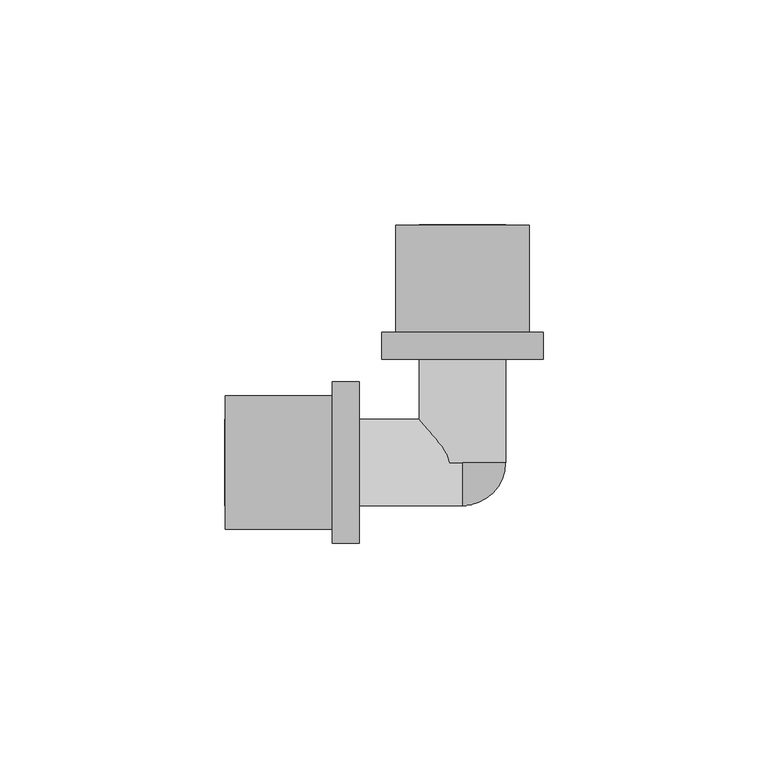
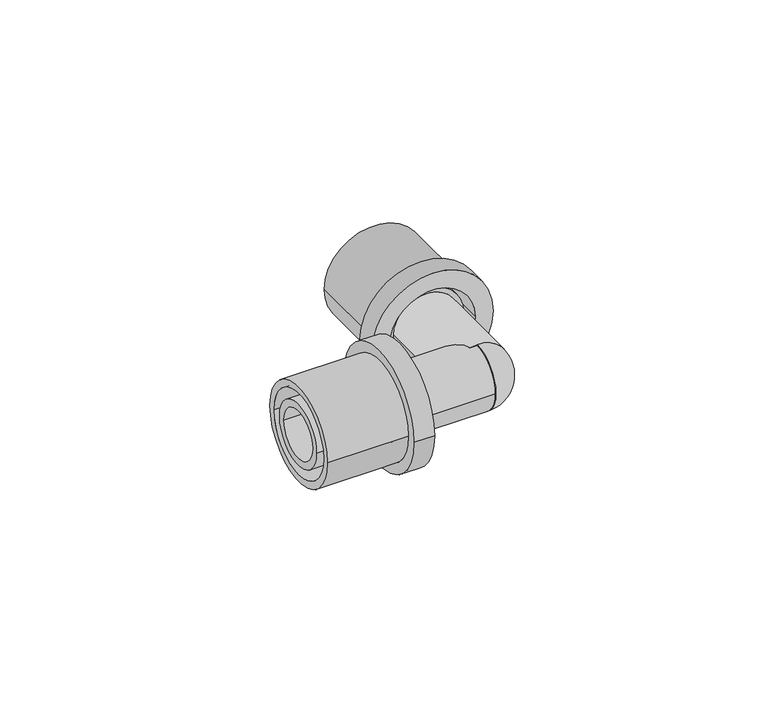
"""IFC4 building model written with IfcOpenShell, lengths in millimetres: pipe fitting geometry, FASTLOC_Corner EX+ : FSL C EX+ AT."""

from ifc_helpers import new_model, si_unit, point, frame, origin, place, context, project, spatial, polyline, circle_curve, ellipse_curve, trimmed, source, transform, mapped, element, save
from ifc_brep_helpers import plane_surface, cylinder_surface, revolved_surface, advanced_brep


def pipe_fitting_f574101e(model_context):
    return source(origin(), model_context, "Body", "AdvancedBrep", [
        advanced_brep(
        [(-18.0, 29.0, 0.0), (18.0, 29.0, 0.0), (18.0, 23.0, 0.0), (-18.0, 23.0, 0.0), (-14.85, 52.8, 0.0), (14.85, 52.8, 0.0), (14.85, 29.0, 0.0), (-14.85, 29.0, 0.0), (-12.65, 23.0, 0.0), (12.65, 23.0, 0.0), (12.65, 52.8, 0.0), (-12.65, 52.8, 0.0)],
        [
            (0, 1, circle_curve(frame((0.0, 29.0, 0.0), z_axis=(0.0, -1.0, 0.0), x_axis=(1.0, 0.0, 0.0)), 18.0)),
            (1, 2),
            (2, 3, circle_curve(frame((0.0, 23.0, 0.0), z_axis=(0.0, 1.0, 0.0), x_axis=(1.0, 0.0, 0.0)), 18.0)),
            (3, 0),
            (4, 5, circle_curve(frame((0.0, 52.8, 0.0), z_axis=(0.0, -1.0, 0.0), x_axis=(1.0, 0.0, 0.0)), 14.85)),
            (5, 6),
            (6, 7, circle_curve(frame((0.0, 29.0, 0.0), z_axis=(0.0, 1.0, 0.0), x_axis=(1.0, 0.0, 0.0)), 14.85)),
            (7, 4),
            (8, 9, circle_curve(frame((0.0, 23.0, 0.0), z_axis=(0.0, -1.0, 0.0), x_axis=(1.0, 0.0, 0.0)), 12.65)),
            (9, 10),
            (10, 11, circle_curve(frame((0.0, 52.8, 0.0), z_axis=(0.0, 1.0, 0.0), x_axis=(1.0, 0.0, 0.0)), 12.65)),
            (11, 8),
            (1, 0, circle_curve(frame((0.0, 29.0, 0.0), z_axis=(0.0, -1.0, 0.0), x_axis=(-1.0, 0.0, 0.0)), 18.0)),
            (3, 2, circle_curve(frame((0.0, 23.0, 0.0), z_axis=(0.0, 1.0, 0.0), x_axis=(-1.0, 0.0, 0.0)), 18.0)),
            (6, 7, circle_curve(frame((0.0, 29.0, 0.0), z_axis=(0.0, -1.0, 0.0), x_axis=(-1.0, 0.0, 0.0)), 14.85)),
            (5, 4, circle_curve(frame((0.0, 52.8, 0.0), z_axis=(0.0, -1.0, 0.0), x_axis=(-1.0, 0.0, 0.0)), 14.85)),
            (10, 11, circle_curve(frame((0.0, 52.8, 0.0), z_axis=(0.0, -1.0, 0.0), x_axis=(-1.0, 0.0, 0.0)), 12.65)),
            (9, 8, circle_curve(frame((0.0, 23.0, 0.0), z_axis=(0.0, -1.0, 0.0), x_axis=(-1.0, 0.0, 0.0)), 12.65)),
        ],
        [
            cylinder_surface(frame((0.0, 23.0, 0.0), z_axis=(0.0, 1.0, 0.0), x_axis=(1.0, 0.0, 0.0)), 18.0),
            cylinder_surface(frame((0.0, 23.0, 0.0), z_axis=(0.0, 1.0, 0.0), x_axis=(1.0, 0.0, 0.0)), 14.85),
            revolved_surface(polyline([(12.65, 52.8, 0.0), (12.65, 23.0, 0.0)]), (0.0, 23.0, 0.0), (0.0, 1.0, 0.0)),
            cylinder_surface(frame((0.0, 23.0, 0.0), z_axis=(0.0, 1.0, 0.0), x_axis=(-1.0, 0.0, 0.0)), 18.0),
            plane_surface(frame((0.0, 29.0, 0.0), z_axis=(0.0, 1.0, 0.0), x_axis=(-1.0, 0.0, 0.0))),
            cylinder_surface(frame((0.0, 23.0, 0.0), z_axis=(0.0, 1.0, 0.0), x_axis=(-1.0, 0.0, 0.0)), 14.85),
            plane_surface(frame((0.0, 52.8, 0.0), z_axis=(0.0, 1.0, 0.0), x_axis=(-1.0, 0.0, 0.0))),
            revolved_surface(polyline([(-12.65, 52.8, 0.0), (-12.65, 23.0, 0.0)]), (0.0, 23.0, 0.0), (0.0, 1.0, 0.0)),
            plane_surface(frame((0.0, 23.0, 0.0), z_axis=(0.0, -1.0, 0.0), x_axis=(-1.0, 0.0, 0.0))),
        ],
        [
            (0, [[1, 2, 3, 4]]),
            (1, [[5, 6, 7, 8]]),
            (2, [[9, 10, 11, 12]]),
            (3, [[13, -4, 14, -2]]),
            (4, [[-13, -1], [15, -7]]),
            (5, [[16, -8, -15, -6]]),
            (6, [[-16, -5], [17, -11]]),
            (7, [[18, -12, -17, -10]]),
            (8, [[-14, -3], [-18, -9]]),
        ],
    ),
        advanced_brep(
        [(-29.0, -18.0, 0.0), (-29.0, 18.0, 0.0), (-23.0, 18.0, 0.0), (-23.0, -18.0, 0.0), (-52.8, -14.85, 0.0), (-52.8, 14.85, 0.0), (-29.0, 14.85, 0.0), (-29.0, -14.85, 0.0), (-23.0, -12.65, 0.0), (-23.0, 12.65, 0.0), (-52.8, 12.65, 0.0), (-52.8, -12.65, 0.0)],
        [
            (0, 1, circle_curve(frame((-29.0, 0.0, 0.0), z_axis=(1.0, 0.0, 0.0), x_axis=(0.0, 1.0, 0.0)), 18.0)),
            (1, 2),
            (2, 3, circle_curve(frame((-23.0, 0.0, 0.0), z_axis=(-1.0, 0.0, 0.0), x_axis=(0.0, 1.0, 0.0)), 18.0)),
            (3, 0),
            (4, 5, circle_curve(frame((-52.8, 0.0, 0.0), z_axis=(1.0, 0.0, 0.0), x_axis=(0.0, 1.0, 0.0)), 14.85)),
            (5, 6),
            (6, 7, circle_curve(frame((-29.0, 0.0, 0.0), z_axis=(-1.0, 0.0, 0.0), x_axis=(0.0, 1.0, 0.0)), 14.85)),
            (7, 4),
            (8, 9, circle_curve(frame((-23.0, 0.0, 0.0), z_axis=(1.0, 0.0, 0.0), x_axis=(0.0, 1.0, 0.0)), 12.65)),
            (9, 10),
            (10, 11, circle_curve(frame((-52.8, 0.0, 0.0), z_axis=(-1.0, 0.0, 0.0), x_axis=(0.0, 1.0, 0.0)), 12.65)),
            (11, 8),
            (1, 0, circle_curve(frame((-29.0, 0.0, 0.0), z_axis=(1.0, 0.0, 0.0), x_axis=(0.0, -1.0, 0.0)), 18.0)),
            (3, 2, circle_curve(frame((-23.0, 0.0, 0.0), z_axis=(-1.0, 0.0, 0.0), x_axis=(0.0, -1.0, 0.0)), 18.0)),
            (6, 7, circle_curve(frame((-29.0, 0.0, 0.0), z_axis=(1.0, 0.0, 0.0), x_axis=(0.0, -1.0, 0.0)), 14.85)),
            (5, 4, circle_curve(frame((-52.8, 0.0, 0.0), z_axis=(1.0, 0.0, 0.0), x_axis=(0.0, -1.0, 0.0)), 14.85)),
            (10, 11, circle_curve(frame((-52.8, 0.0, 0.0), z_axis=(1.0, 0.0, 0.0), x_axis=(0.0, -1.0, 0.0)), 12.65)),
            (9, 8, circle_curve(frame((-23.0, 0.0, 0.0), z_axis=(1.0, 0.0, 0.0), x_axis=(0.0, -1.0, 0.0)), 12.65)),
        ],
        [
            cylinder_surface(frame((-23.0, 0.0, 0.0), z_axis=(-1.0, 0.0, 0.0), x_axis=(0.0, 1.0, 0.0)), 18.0),
            cylinder_surface(frame((-23.0, 0.0, 0.0), z_axis=(-1.0, 0.0, 0.0), x_axis=(0.0, 1.0, 0.0)), 14.85),
            revolved_surface(polyline([(-52.8, 12.65, 0.0), (-23.0, 12.65, 0.0)]), (-23.0, 0.0, 0.0), (-1.0, 0.0, 0.0)),
            cylinder_surface(frame((-23.0, 0.0, 0.0), z_axis=(-1.0, 0.0, 0.0), x_axis=(0.0, -1.0, 0.0)), 18.0),
            plane_surface(frame((-29.0, 0.0, 0.0), z_axis=(-1.0, 0.0, 0.0), x_axis=(0.0, -1.0, 0.0))),
            cylinder_surface(frame((-23.0, 0.0, 0.0), z_axis=(-1.0, 0.0, 0.0), x_axis=(0.0, -1.0, 0.0)), 14.85),
            plane_surface(frame((-52.8, 0.0, 0.0), z_axis=(-1.0, 0.0, 0.0), x_axis=(0.0, -1.0, 0.0))),
            revolved_surface(polyline([(-52.8, -12.65, 0.0), (-23.0, -12.65, 0.0)]), (-23.0, 0.0, 0.0), (-1.0, 0.0, 0.0)),
            plane_surface(frame((-23.0, 0.0, 0.0), z_axis=(1.0, 0.0, 0.0), x_axis=(0.0, -1.0, 0.0))),
        ],
        [
            (0, [[1, 2, 3, 4]]),
            (1, [[5, 6, 7, 8]]),
            (2, [[9, 10, 11, 12]]),
            (3, [[13, -4, 14, -2]]),
            (4, [[-13, -1], [15, -7]]),
            (5, [[16, -8, -15, -6]]),
            (6, [[-16, -5], [17, -11]]),
            (7, [[18, -12, -17, -10]]),
            (8, [[-14, -3], [-18, -9]]),
        ],
    ),
        advanced_brep(
        [(0.0, 0.0, 9.6), (0.0, 0.0, 0.0), (0.0, -9.6, 0.0), (0.0, 0.0, -9.6)],
        [
            (0, 1),
            (1, 2),
            (2, 0, circle_curve(frame((0.0, 0.0, 0.0), z_axis=(-1.0, 0.0, 0.0), x_axis=(0.0, 0.0, 1.0)), 9.6)),
            (3, 2, circle_curve(frame((0.0, 0.0, 0.0), z_axis=(-1.0, 0.0, 0.0), x_axis=(0.0, 0.0, -1.0)), 9.6)),
            (1, 3),
            (0, 3, circle_curve(frame((0.0, 0.0, 0.0), z_axis=(0.0, 1.0, 0.0), x_axis=(0.0, 0.0, 1.0)), 9.6)),
        ],
        [
            plane_surface(frame((0.0, 0.0, 0.0), z_axis=(-1.0, 0.0, 0.0), x_axis=(0.0, 0.0, 1.0))),
            plane_surface(frame((0.0, 0.0, 0.0), z_axis=(-1.0, 0.0, 0.0), x_axis=(0.0, 0.0, -1.0))),
            plane_surface(frame((0.0, 0.0, 0.0), z_axis=(0.0, 1.0, 0.0), x_axis=(0.0, 0.0, 1.0))),
            revolved_surface(trimmed(ellipse_curve(frame((0.0, 0.0, 0.0), z_axis=(-1.0, 0.0, 0.0), x_axis=(0.0, 0.0, 1.0)), 9.6, 9.6), [point((0.0, -9.6, 0.0))], [point((0.0, 0.0, 9.6))], True, "CARTESIAN"), (0.0, 0.0, 0.0), (0.0, 1.0, 0.0)),
        ],
        [
            (0, [[1, 2, 3]]),
            (1, [[4, -2, 5]]),
            (2, [[-1, 6, -5]]),
            (3, [[-6, -3, -4]]),
        ],
    ),
        advanced_brep(
        [(7.35, 53.0, 0.0), (-7.35, 53.0, 0.0), (-7.35, 0.0, 0.0), (7.35, 0.0, 0.0), (9.6, 29.0, 0.0), (-9.6, 29.0, 0.0), (-9.6, 53.0, 0.0), (9.6, 53.0, 0.0), (11.1, 26.2, 0.0), (-11.1, 26.2, 0.0), (-11.1, 29.0, 0.0), (11.1, 29.0, 0.0), (9.6, 0.0, 0.0), (-9.6, 0.0, 0.0), (-9.6, 26.2, 0.0), (9.6, 26.2, 0.0)],
        [
            (0, 1, circle_curve(frame((0.0, 53.0, 0.0), z_axis=(0.0, 1.0, 0.0), x_axis=(-1.0, 0.0, 0.0)), 7.35)),
            (1, 2),
            (2, 3, circle_curve(frame((0.0, 0.0, 0.0), z_axis=(0.0, -1.0, 0.0), x_axis=(-1.0, 0.0, 0.0)), 7.35)),
            (3, 0),
            (4, 5, circle_curve(frame((0.0, 29.0, 0.0), z_axis=(0.0, 1.0, 0.0), x_axis=(-1.0, 0.0, 0.0)), 9.6)),
            (5, 6),
            (6, 7, circle_curve(frame((0.0, 53.0, 0.0), z_axis=(0.0, -1.0, 0.0), x_axis=(-1.0, 0.0, 0.0)), 9.6)),
            (7, 4),
            (8, 9, circle_curve(frame((0.0, 26.2, 0.0), z_axis=(0.0, 1.0, 0.0), x_axis=(-1.0, 0.0, 0.0)), 11.1)),
            (9, 10),
            (10, 11, circle_curve(frame((0.0, 29.0, 0.0), z_axis=(0.0, -1.0, 0.0), x_axis=(-1.0, 0.0, 0.0)), 11.1)),
            (11, 8),
            (12, 13, circle_curve(frame((0.0, 0.0, 0.0), z_axis=(0.0, 1.0, 0.0), x_axis=(-1.0, 0.0, 0.0)), 9.6)),
            (13, 14),
            (14, 15, circle_curve(frame((0.0, 26.2, 0.0), z_axis=(0.0, -1.0, 0.0), x_axis=(-1.0, 0.0, 0.0)), 9.6)),
            (15, 12),
            (1, 0, circle_curve(frame((0.0, 53.0, 0.0), z_axis=(0.0, 1.0, 0.0), x_axis=(1.0, 0.0, 0.0)), 7.35)),
            (3, 2, circle_curve(frame((0.0, 0.0, 0.0), z_axis=(0.0, -1.0, 0.0), x_axis=(1.0, 0.0, 0.0)), 7.35)),
            (6, 7, circle_curve(frame((0.0, 53.0, 0.0), z_axis=(0.0, 1.0, 0.0), x_axis=(1.0, 0.0, 0.0)), 9.6)),
            (5, 4, circle_curve(frame((0.0, 29.0, 0.0), z_axis=(0.0, 1.0, 0.0), x_axis=(1.0, 0.0, 0.0)), 9.6)),
            (10, 11, circle_curve(frame((0.0, 29.0, 0.0), z_axis=(0.0, 1.0, 0.0), x_axis=(1.0, 0.0, 0.0)), 11.1)),
            (9, 8, circle_curve(frame((0.0, 26.2, 0.0), z_axis=(0.0, 1.0, 0.0), x_axis=(1.0, 0.0, 0.0)), 11.1)),
            (14, 15, circle_curve(frame((0.0, 26.2, 0.0), z_axis=(0.0, 1.0, 0.0), x_axis=(1.0, 0.0, 0.0)), 9.6)),
            (13, 12, circle_curve(frame((0.0, 0.0, 0.0), z_axis=(0.0, 1.0, 0.0), x_axis=(1.0, 0.0, 0.0)), 9.6)),
        ],
        [
            revolved_surface(polyline([(-7.35, 0.0, 0.0), (-7.35, 53.0, 0.0)]), (0.0, 0.0, 0.0), (0.0, -1.0, 0.0)),
            cylinder_surface(frame((0.0, 0.0, 0.0), z_axis=(0.0, -1.0, 0.0), x_axis=(-1.0, 0.0, 0.0)), 9.6),
            cylinder_surface(frame((0.0, 0.0, 0.0), z_axis=(0.0, -1.0, 0.0), x_axis=(-1.0, 0.0, 0.0)), 11.1),
            revolved_surface(polyline([(7.35, 0.0, 0.0), (7.35, 53.0, 0.0)]), (0.0, 0.0, 0.0), (0.0, -1.0, 0.0)),
            plane_surface(frame((0.0, 53.0, 0.0), z_axis=(0.0, 1.0, 0.0), x_axis=(1.0, 0.0, 0.0))),
            cylinder_surface(frame((0.0, 0.0, 0.0), z_axis=(0.0, -1.0, 0.0), x_axis=(1.0, 0.0, 0.0)), 9.6),
            plane_surface(frame((0.0, 29.0, 0.0), z_axis=(0.0, 1.0, 0.0), x_axis=(1.0, 0.0, 0.0))),
            cylinder_surface(frame((0.0, 0.0, 0.0), z_axis=(0.0, -1.0, 0.0), x_axis=(1.0, 0.0, 0.0)), 11.1),
            plane_surface(frame((0.0, 26.2, 0.0), z_axis=(0.0, -1.0, 0.0), x_axis=(1.0, 0.0, 0.0))),
            plane_surface(frame((0.0, 0.0, 0.0), z_axis=(0.0, -1.0, 0.0), x_axis=(1.0, 0.0, 0.0))),
        ],
        [
            (0, [[1, 2, 3, 4]]),
            (1, [[5, 6, 7, 8]]),
            (2, [[9, 10, 11, 12]]),
            (1, [[13, 14, 15, 16]]),
            (3, [[17, -4, 18, -2]]),
            (4, [[19, -7], [-17, -1]]),
            (5, [[20, -8, -19, -6]]),
            (6, [[21, -11], [-20, -5]]),
            (7, [[22, -12, -21, -10]]),
            (8, [[-22, -9], [23, -15]]),
            (5, [[24, -16, -23, -14]]),
            (9, [[-24, -13], [-18, -3]]),
        ],
    ),
        advanced_brep(
        [(0.0, 9.6, 0.0), (0.0, -9.6, 0.0), (-26.2, -9.6, 0.0), (-26.2, 9.6, 0.0), (-26.2, 11.1, 0.0), (-26.2, -11.1, 0.0), (-29.0, -11.1, 0.0), (-29.0, 11.1, 0.0), (-29.0, 9.6, 0.0), (-29.0, -9.6, 0.0), (-53.0, -9.6, 0.0), (-53.0, 9.6, 0.0), (-53.0, 7.35, 0.0), (-53.0, -7.35, 0.0), (0.0, -7.35, 0.0), (0.0, 7.35, 0.0)],
        [
            (0, 1, circle_curve(frame((0.0, 0.0, 0.0), z_axis=(-1.0, 0.0, 0.0), x_axis=(0.0, -1.0, 0.0)), 9.6)),
            (1, 2),
            (2, 3, circle_curve(frame((-26.2, 0.0, 0.0), z_axis=(1.0, 0.0, 0.0), x_axis=(0.0, -1.0, 0.0)), 9.6)),
            (3, 0),
            (4, 5, circle_curve(frame((-26.2, 0.0, 0.0), z_axis=(-1.0, 0.0, 0.0), x_axis=(0.0, -1.0, 0.0)), 11.1)),
            (5, 6),
            (6, 7, circle_curve(frame((-29.0, 0.0, 0.0), z_axis=(1.0, 0.0, 0.0), x_axis=(0.0, -1.0, 0.0)), 11.1)),
            (7, 4),
            (8, 9, circle_curve(frame((-29.0, 0.0, 0.0), z_axis=(-1.0, 0.0, 0.0), x_axis=(0.0, -1.0, 0.0)), 9.6)),
            (9, 10),
            (10, 11, circle_curve(frame((-53.0, 0.0, 0.0), z_axis=(1.0, 0.0, 0.0), x_axis=(0.0, -1.0, 0.0)), 9.6)),
            (11, 8),
            (12, 13, circle_curve(frame((-53.0, 0.0, 0.0), z_axis=(-1.0, 0.0, 0.0), x_axis=(0.0, -1.0, 0.0)), 7.35)),
            (13, 14),
            (14, 15, circle_curve(frame((0.0, 0.0, 0.0), z_axis=(1.0, 0.0, 0.0), x_axis=(0.0, -1.0, 0.0)), 7.35)),
            (15, 12),
            (0, 1, circle_curve(frame((0.0, 0.0, 0.0), z_axis=(1.0, 0.0, 0.0), x_axis=(0.0, 1.0, 0.0)), 9.6)),
            (14, 15, circle_curve(frame((0.0, 0.0, 0.0), z_axis=(-1.0, 0.0, 0.0), x_axis=(0.0, 1.0, 0.0)), 7.35)),
            (3, 2, circle_curve(frame((-26.2, 0.0, 0.0), z_axis=(1.0, 0.0, 0.0), x_axis=(0.0, 1.0, 0.0)), 9.6)),
            (4, 5, circle_curve(frame((-26.2, 0.0, 0.0), z_axis=(1.0, 0.0, 0.0), x_axis=(0.0, 1.0, 0.0)), 11.1)),
            (7, 6, circle_curve(frame((-29.0, 0.0, 0.0), z_axis=(1.0, 0.0, 0.0), x_axis=(0.0, 1.0, 0.0)), 11.1)),
            (8, 9, circle_curve(frame((-29.0, 0.0, 0.0), z_axis=(1.0, 0.0, 0.0), x_axis=(0.0, 1.0, 0.0)), 9.6)),
            (11, 10, circle_curve(frame((-53.0, 0.0, 0.0), z_axis=(1.0, 0.0, 0.0), x_axis=(0.0, 1.0, 0.0)), 9.6)),
            (12, 13, circle_curve(frame((-53.0, 0.0, 0.0), z_axis=(1.0, 0.0, 0.0), x_axis=(0.0, 1.0, 0.0)), 7.35)),
        ],
        [
            cylinder_surface(frame((0.0, 0.0, 0.0), z_axis=(1.0, 0.0, 0.0), x_axis=(0.0, -1.0, 0.0)), 9.6),
            cylinder_surface(frame((0.0, 0.0, 0.0), z_axis=(1.0, 0.0, 0.0), x_axis=(0.0, -1.0, 0.0)), 11.1),
            revolved_surface(polyline([(0.0, -7.35, 0.0), (-53.0, -7.35, 0.0)]), (0.0, 0.0, 0.0), (1.0, 0.0, 0.0)),
            plane_surface(frame((0.0, 0.0, 0.0), z_axis=(1.0, 0.0, 0.0), x_axis=(0.0, 1.0, 0.0))),
            cylinder_surface(frame((0.0, 0.0, 0.0), z_axis=(1.0, 0.0, 0.0), x_axis=(0.0, 1.0, 0.0)), 9.6),
            plane_surface(frame((-26.2, 0.0, 0.0), z_axis=(1.0, 0.0, 0.0), x_axis=(0.0, 1.0, 0.0))),
            cylinder_surface(frame((0.0, 0.0, 0.0), z_axis=(1.0, 0.0, 0.0), x_axis=(0.0, 1.0, 0.0)), 11.1),
            plane_surface(frame((-29.0, 0.0, 0.0), z_axis=(-1.0, 0.0, 0.0), x_axis=(0.0, 1.0, 0.0))),
            plane_surface(frame((-53.0, 0.0, 0.0), z_axis=(-1.0, 0.0, 0.0), x_axis=(0.0, 1.0, 0.0))),
            revolved_surface(polyline([(0.0, 7.35, 0.0), (-53.0, 7.35, 0.0)]), (0.0, 0.0, 0.0), (1.0, 0.0, 0.0)),
        ],
        [
            (0, [[1, 2, 3, 4]]),
            (1, [[5, 6, 7, 8]]),
            (0, [[9, 10, 11, 12]]),
            (2, [[13, 14, 15, 16]]),
            (3, [[17, -1], [18, -15]]),
            (4, [[-17, -4, 19, -2]]),
            (5, [[20, -5], [-19, -3]]),
            (6, [[-20, -8, 21, -6]]),
            (7, [[-21, -7], [22, -9]]),
            (4, [[-22, -12, 23, -10]]),
            (8, [[-23, -11], [24, -13]]),
            (9, [[-24, -16, -18, -14]]),
        ],
    ),
    ])


if __name__ == "__main__":
    model = new_model("IFC4")
    model_context = context("Model", 3, world=origin())
    ifc_project = project(units=[si_unit("LENGTHUNIT", "METRE", prefix="MILLI")], contexts=[model_context])
    site = spatial("IfcSite", under=ifc_project)
    building = spatial("IfcBuilding", under=site)
    placement = place(None, origin())
    pipe_fitting_shape = pipe_fitting_f574101e(model_context)
    element("IfcPipeFitting", 1, ObjectType="FASTLOC_Corner EX+ : FSL C EX+ AT", at=placement, inside=building, context=model_context, shape_type="MappedRepresentation", body=[
        mapped(pipe_fitting_shape, transform((0.0, 0.0, 0.0), x_axis=(1.0, 0.0, 0.0), y_axis=(0.0, 1.0, 0.0), z_axis=(0.0, 0.0, 1.0))),
    ])
    save(model, "model.ifc")
